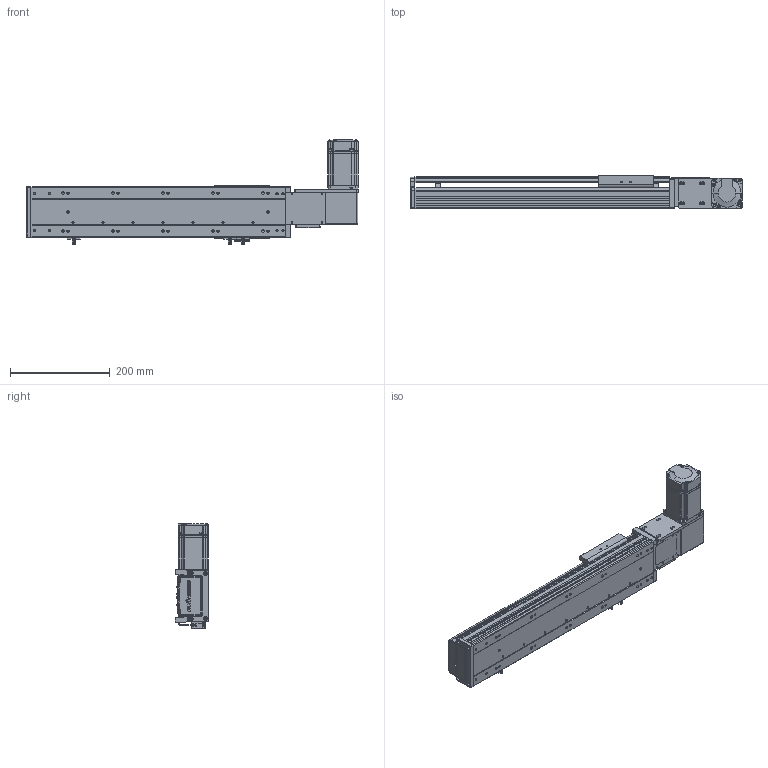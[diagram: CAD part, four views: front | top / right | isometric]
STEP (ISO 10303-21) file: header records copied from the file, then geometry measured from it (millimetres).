
FILE_DESCRIPTION (( 'STEP AP203' ), '1' );
FILE_NAME ('RY100-T-300-RK.SLDASM_300.step', '2024-04-25T08:21:17', ( '盈信电脑' ), ( '东莞市道滘镇水果街19号' ), 'SwSTEP 2.0', 'SolidWorks 2016', '' );
FILE_SCHEMA (( 'CONFIG_CONTROL_DESIGN' ));
Length unit declared in the file: millimetre
Products named in the file (15): RY100綴裔啣; 侂狟200W萇儂; RY100-T肮祭謫翋盓傅釱; RY80-T肮祭謫俋欶; RY100-T粣創揤踡裔; RY100-T-300-RK.SLDASM_300; RY100-T-300-RK倰第奻裔; 滅袉蝶18-10; RY100-T左右折电机安装板; RY100-T肮祭謫臏賑輸; RY100-T-300-RK倰第菁釱_300; 1; RY100俋离覜茼え; 覜茼ん672; RY100-T翋肮祭謫裔啣2
Assembly tree (18 placements, depth 3):
  RY100-T-300-RK.SLDASM_300
    RY100-T-300-RK倰第菁釱_300
    RY100-T-300-RK倰第奻裔
    RY100-T肮祭謫臏賑輸
    RY100綴裔啣
    覜茼ん672  x3
    RY100俋离覜茼え
    RY100-T肮祭謫翋盓傅釱
    RY100-T左右折电机安装板
    侂狟200W萇儂
      1
    RY100-T粣創揤踡裔
    滅袉蝶18-10  x2
    RY100-T翋肮祭謫裔啣2  x2
    RY80-T肮祭謫俋欶
Bounding box: 664 x 66 x 209.7 mm (x, y, z)
Volume: 1508178.5 mm3; surface area: 581570.7 mm2
Topology: 17 solids, 17 shells, 2115 faces, 5861 edges, 3807 vertices
Faces by surface type: plane 1181, cylinder 729, cone 127, bspline 78
Entity records: 66987 total; most frequent: CARTESIAN_POINT 16059, ORIENTED_EDGE 10458, DIRECTION 9945, EDGE_CURVE 5229, VECTOR 3449, LINE 3449, VERTEX_POINT 3443, AXIS2_PLACEMENT_3D 3248
